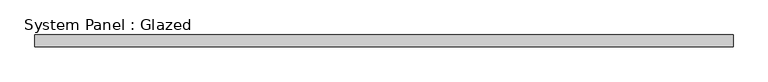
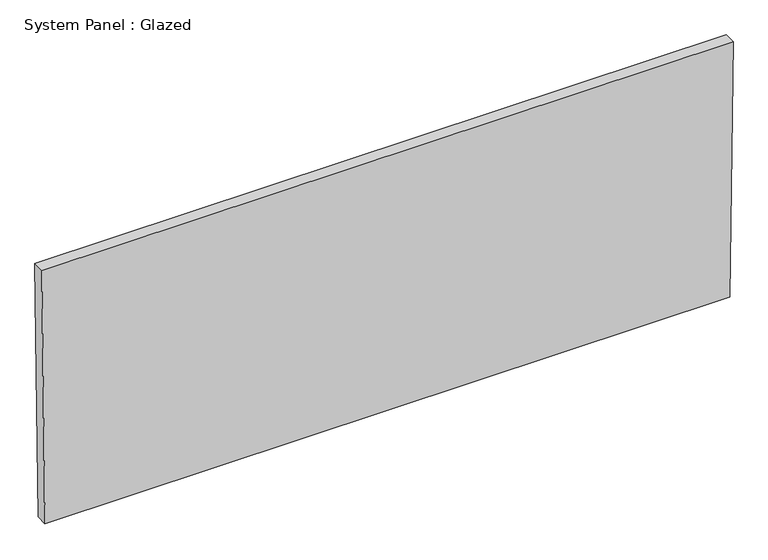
"""IFC4 building model written with IfcOpenShell, lengths in millimetres: plate geometry, System Panel : Glazed."""

from ifc_helpers import new_model, si_unit, frame, origin, place, context, project, spatial, polyline, outline, extrude, source, transform, mapped, element, save


def system_panel_glazed_2b57bb89(model_context):
    return source(origin(), model_context, "Body", "SweptSolid", [
        extrude(outline(polyline([(0.0, -743.1741464), (0.0, 743.1741464), (584.1562589, 750.1724001), (584.1562589, -750.1724001), (0.0, -743.1741464)])), frame((0.0, 19.05, 0.0), z_axis=(0.0, 1.0, 0.0), x_axis=(0.0, 0.0, 1.0)), (0.0, 0.0, 1.0), 25.4),
    ])


if __name__ == "__main__":
    model = new_model("IFC4")
    model_context = context("Model", 3, world=origin())
    ifc_project = project(units=[si_unit("LENGTHUNIT", "METRE", prefix="MILLI")], contexts=[model_context])
    site = spatial("IfcSite", under=ifc_project)
    building = spatial("IfcBuilding", under=site)
    placement = place(None, origin())
    system_panel_glazed_shape = system_panel_glazed_2b57bb89(model_context)
    element("IfcPlate", 1, ObjectType="System Panel : Glazed", at=placement, inside=building, context=model_context, shape_type="MappedRepresentation", body=[
        mapped(system_panel_glazed_shape, transform((0.0, 0.0, 0.0), x_axis=(1.0, 0.0, 0.0), y_axis=(0.0, 1.0, 0.0), z_axis=(0.0, 0.0, 1.0))),
    ])
    save(model, "model.ifc")
